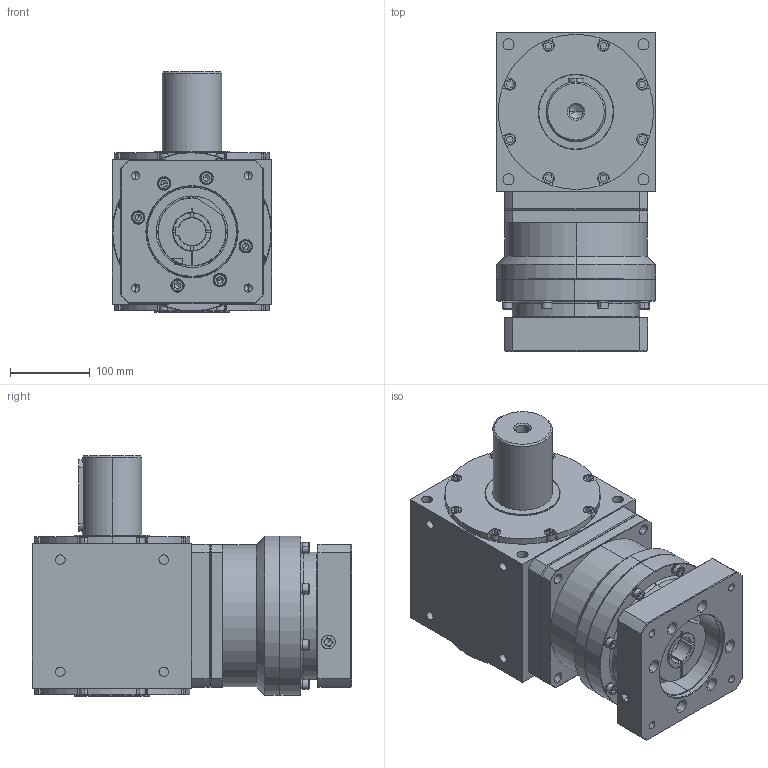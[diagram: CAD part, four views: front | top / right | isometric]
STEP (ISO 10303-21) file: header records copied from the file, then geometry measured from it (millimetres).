
FILE_DESCRIPTION (( 'STEP AP203' ), '1' );
FILE_NAME ('AAW200AS-L1-P 35-114.3-200-M12.STEP', '2024-12-17T09:19:46', ( '' ), ( '' ), 'SwSTEP 2.0', 'SolidWorks 2021', '' );
FILE_SCHEMA (( 'CONFIG_CONTROL_DESIGN' ));
Length unit declared in the file: millimetre
Products named in the file (3): AAW200AS-L1-P 35-114.3-200-M12; KS180L1-114.3-35-82-M12-200俋倛芞; AAW200AS-P
Assembly tree (2 placements, depth 2):
  AAW200AS-L1-P 35-114.3-200-M12
    AAW200AS-P
    KS180L1-114.3-35-82-M12-200俋倛芞
Bounding box: 200 x 401 x 302 mm (x, y, z)
Volume: 14024763.1 mm3; surface area: 748989.3 mm2
Topology: 36 solids, 36 shells, 1334 faces, 3161 edges, 1969 vertices
Faces by surface type: plane 628, cylinder 491, cone 173, bspline 42
Entity records: 39221 total; most frequent: CARTESIAN_POINT 7935, DIRECTION 6790, ORIENTED_EDGE 6194, EDGE_CURVE 3097, AXIS2_PLACEMENT_3D 2572, VERTEX_POINT 1969, VECTOR 1646, LINE 1646
